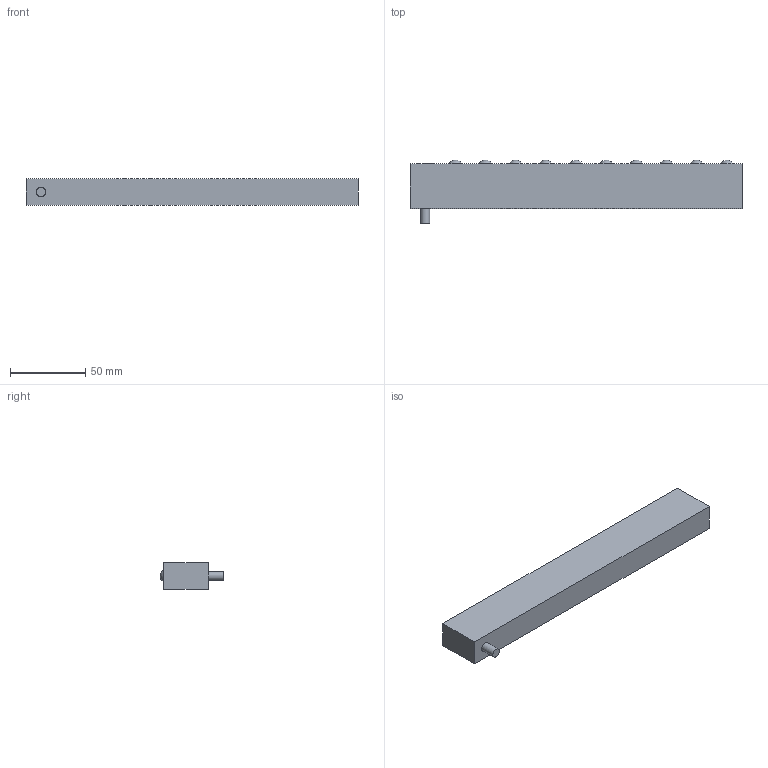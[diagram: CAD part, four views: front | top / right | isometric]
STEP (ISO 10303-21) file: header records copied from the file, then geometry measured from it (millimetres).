
FILE_DESCRIPTION(/* description */ (''),/* implementation_level */ '2;1');
FILE_NAME(/* name */ 'V:\Shrinkwrap\EMB\EMB - SHRINKWRAP\EMB18-10_Shrinkwrap_1.stp',/* time_stamp */ '2022-08-12T09:58:10+02:00',/* author */ ('cw'),/* organization */ (''),/* preprocessor_version */ 'ST-DEVELOPER v17',/* originating_system */ 'Autodesk Inventor 2019',/* authorisation */ '');
FILE_SCHEMA (('AUTOMOTIVE_DESIGN { 1 0 10303 214 3 1 1 }'));
Length unit declared in the file: millimetre
Products named in the file (1): EMB18-10_Shrinkwrap_1
Bounding box: 220 x 42.27 x 17.8 mm (x, y, z)
Volume: 116211.6 mm3; surface area: 23627.9 mm2
Topology: 1 solids, 1 shells, 24 faces, 38 edges, 32 vertices
Faces by surface type: sphere 10, plane 10, cylinder 4
Full cylindrical faces by diameter (mm): 6 x1, 6.5 x1, 10 x1, 11 x1
Entity records: 658 total; most frequent: DIRECTION 106, CARTESIAN_POINT 93, ORIENTED_EDGE 72, AXIS2_PLACEMENT_3D 45, EDGE_LOOP 38, EDGE_CURVE 36, VERTEX_POINT 28, STYLED_ITEM 27
